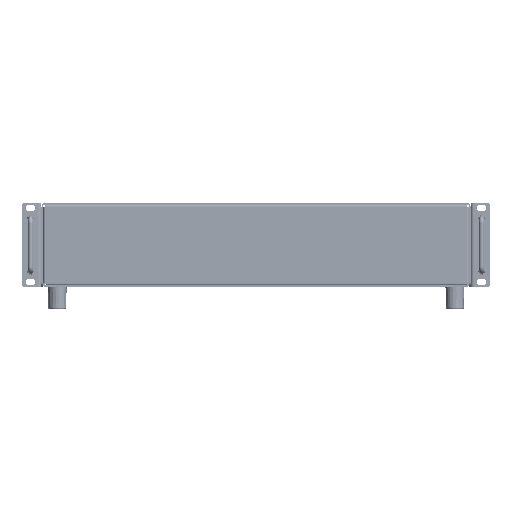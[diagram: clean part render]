
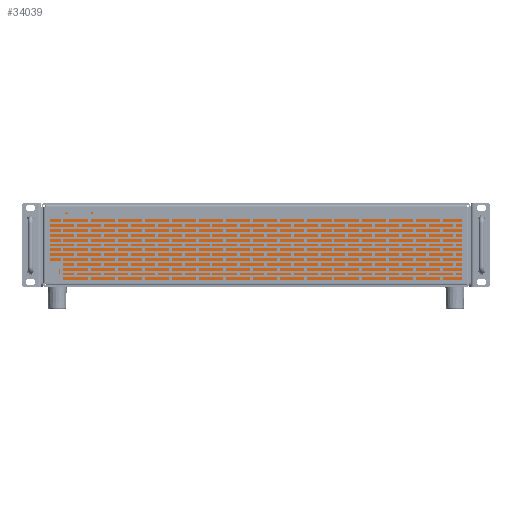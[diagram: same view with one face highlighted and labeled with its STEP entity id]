
A CAD part, front view. The second image highlights one B-rep face of the part: STEP entity #34039.
In plain terms, the highlighted planar face has unit normal (0, -1, 0).
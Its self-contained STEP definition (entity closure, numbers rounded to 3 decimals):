
#34039=ADVANCED_FACE('',(#69896),#69897,.F.);
#69896=FACE_OUTER_BOUND('',#108175,.T.);
#69897=PLANE('',#108176);
#108175=EDGE_LOOP('',(#208621,#208622,#208623,#208624));
#108176=AXIS2_PLACEMENT_3D('',#208625,#208626,#208627);
#208621=ORIENTED_EDGE('',*,*,#249860,.T.);
#208622=ORIENTED_EDGE('',*,*,#249856,.F.);
#208623=ORIENTED_EDGE('',*,*,#249861,.F.);
#208624=ORIENTED_EDGE('',*,*,#249853,.F.);
#208625=CARTESIAN_POINT('',(215.45,11.998,38.75));
#208626=DIRECTION('',(0.0,1.0,0.0));
#208627=DIRECTION('',(0.0,0.0,1.0));
#249853=EDGE_CURVE('',#307062,#307057,#307064,.F.);
#249856=EDGE_CURVE('',#307067,#307069,#307070,.T.);
#249860=EDGE_CURVE('',#307062,#307069,#307075,.T.);
#249861=EDGE_CURVE('',#307057,#307067,#307076,.T.);
#307057=VERTEX_POINT('',#387794);
#307062=VERTEX_POINT('',#387801);
#307064=LINE('',#387804,#387805);
#307067=VERTEX_POINT('',#387808);
#307069=VERTEX_POINT('',#387811);
#307070=LINE('',#387812,#387813);
#307075=LINE('',#387820,#387821);
#307076=LINE('',#387822,#387823);
#387794=CARTESIAN_POINT('',(433.9,11.998,85.));
#387801=CARTESIAN_POINT('',(-3.,11.998,85.));
#387804=CARTESIAN_POINT('',(215.45,11.998,85.));
#387805=VECTOR('',#429120,1.0);
#387808=CARTESIAN_POINT('',(433.9,11.998,3.));
#387811=CARTESIAN_POINT('',(-3.,11.998,3.));
#387812=CARTESIAN_POINT('',(215.45,11.998,3.));
#387813=VECTOR('',#429122,1.0);
#387820=CARTESIAN_POINT('',(-3.,11.998,38.75));
#387821=VECTOR('',#429125,1.0);
#387822=CARTESIAN_POINT('',(433.9,11.998,38.75));
#387823=VECTOR('',#429126,1.0);
#429120=DIRECTION('',(-1.0,0.0,0.0));
#429122=DIRECTION('',(-1.0,0.0,0.0));
#429125=DIRECTION('',(0.0,0.0,-1.0));
#429126=DIRECTION('',(0.0,0.0,-1.0));
